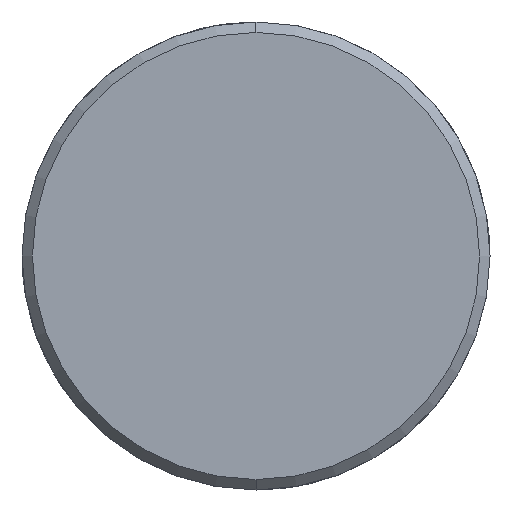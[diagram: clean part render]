
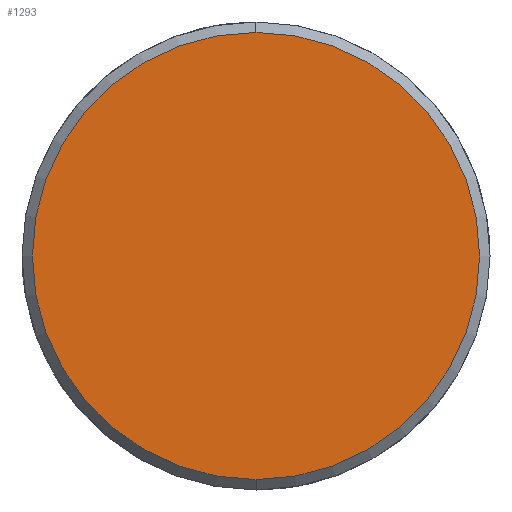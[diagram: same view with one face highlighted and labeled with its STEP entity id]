
A CAD part, left-side view. The second image highlights one B-rep face of the part: STEP entity #1293.
In plain terms, the highlighted planar face has unit normal (-1, 0, 0).
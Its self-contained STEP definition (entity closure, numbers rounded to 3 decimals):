
#1225=CARTESIAN_POINT('Vertex',(-7.,0.,-21.5)) ;
#1228=CARTESIAN_POINT('Axis2P3D Location',(-7.,0.,0.)) ;
#1232=CARTESIAN_POINT('Vertex',(-7.,21.5,0.)) ;
#1235=CARTESIAN_POINT('Axis2P3D Location',(-7.,0.,0.)) ;
#1239=CARTESIAN_POINT('Vertex',(-7.,0.,21.5)) ;
#1261=CARTESIAN_POINT('Axis2P3D Location',(-7.,0.,0.)) ;
#1265=CARTESIAN_POINT('Vertex',(-7.,-21.5,0.)) ;
#1268=CARTESIAN_POINT('Axis2P3D Location',(-7.,0.,0.)) ;
#1282=CARTESIAN_POINT('Axis2P3D Location',(-7.,0.,0.)) ;
#1229=DIRECTION('Axis2P3D Direction',(1.,0.,-0.)) ;
#1236=DIRECTION('Axis2P3D Direction',(1.,0.,-0.)) ;
#1262=DIRECTION('Axis2P3D Direction',(1.,0.,-0.)) ;
#1269=DIRECTION('Axis2P3D Direction',(1.,0.,-0.)) ;
#1283=DIRECTION('Axis2P3D Direction',(1.,0.,-0.)) ;
#1284=DIRECTION('Axis2P3D XDirection',(-0.,0.,-1.)) ;
#1230=AXIS2_PLACEMENT_3D('Circle Axis2P3D',#1228,#1229,$) ;
#1237=AXIS2_PLACEMENT_3D('Circle Axis2P3D',#1235,#1236,$) ;
#1263=AXIS2_PLACEMENT_3D('Circle Axis2P3D',#1261,#1262,$) ;
#1270=AXIS2_PLACEMENT_3D('Circle Axis2P3D',#1268,#1269,$) ;
#1285=AXIS2_PLACEMENT_3D('Plane Axis2P3D',#1282,#1283,#1284) ;
#1288=ORIENTED_EDGE('',*,*,#1234,.F.) ;
#1289=ORIENTED_EDGE('',*,*,#1272,.F.) ;
#1290=ORIENTED_EDGE('',*,*,#1267,.F.) ;
#1291=ORIENTED_EDGE('',*,*,#1241,.F.) ;
#1293=ADVANCED_FACE('351-32X126X400',(#1292),#1286,.F.) ;
#1231=CIRCLE('generated circle',#1230,21.5) ;
#1238=CIRCLE('generated circle',#1237,21.5) ;
#1264=CIRCLE('generated circle',#1263,21.5) ;
#1271=CIRCLE('generated circle',#1270,21.5) ;
#1234=EDGE_CURVE('',#1226,#1233,#1231,.T.) ;
#1241=EDGE_CURVE('',#1233,#1240,#1238,.T.) ;
#1267=EDGE_CURVE('',#1240,#1266,#1264,.T.) ;
#1272=EDGE_CURVE('',#1266,#1226,#1271,.T.) ;
#1287=EDGE_LOOP('',(#1288,#1289,#1290,#1291)) ;
#1292=FACE_OUTER_BOUND('',#1287,.T.) ;
#1286=PLANE('Plane',#1285) ;
#1226=VERTEX_POINT('',#1225) ;
#1233=VERTEX_POINT('',#1232) ;
#1240=VERTEX_POINT('',#1239) ;
#1266=VERTEX_POINT('',#1265) ;
